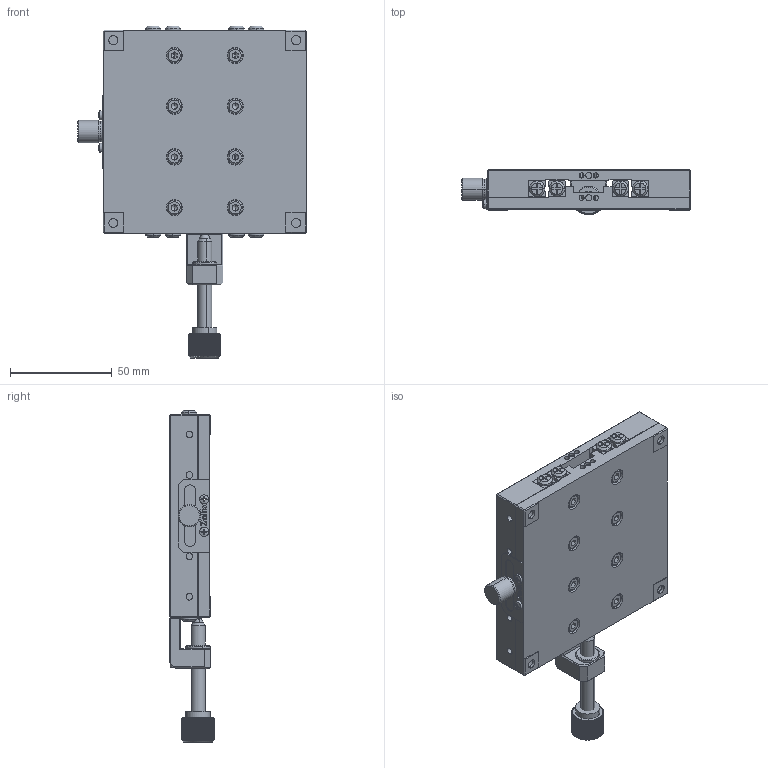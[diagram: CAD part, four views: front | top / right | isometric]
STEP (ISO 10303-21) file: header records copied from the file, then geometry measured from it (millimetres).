
FILE_DESCRIPTION (( 'STEP AP203' ), '1' );
FILE_NAME ('AK25-10020CZ.step', '2019-05-09T02:43:30', ( '' ), ( '' ), 'SwSTEP 2.0', 'SolidWorks 2017', '' );
FILE_SCHEMA (( 'CONFIG_CONTROL_DESIGN' ));
Length unit declared in the file: millimetre
Products named in the file (1): AK25-10020CZ
Bounding box: 112.5 x 22 x 163.5 mm (x, y, z)
Surface area: 71873.8 mm2 (no closed solid volume)
Topology: 0 solids, 42 shells, 1258 faces, 3813 edges, 2479 vertices
Faces by surface type: plane 720, cylinder 323, cone 173, torus 36, sphere 6
Entity records: 43306 total; most frequent: CARTESIAN_POINT 9873, DIRECTION 6845, ORIENTED_EDGE 6623, EDGE_CURVE 3775, VERTEX_POINT 2479, AXIS2_PLACEMENT_3D 2381, VECTOR 2083, LINE 2083
